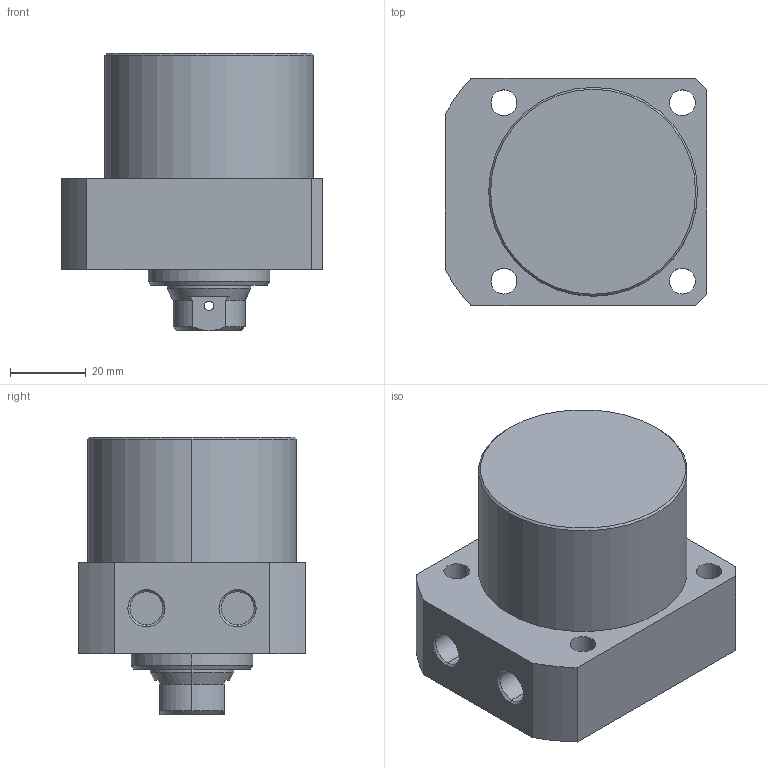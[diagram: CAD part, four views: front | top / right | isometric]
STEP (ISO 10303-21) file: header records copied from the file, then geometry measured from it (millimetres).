
FILE_DESCRIPTION (( 'STEP AP203' ), '1' );
FILE_NAME ('CLLR-055CB-020.STEP', '2019-12-19T07:43:59', ( '' ), ( '' ), 'SwSTEP 2.0', 'SolidWorks 2015', '' );
FILE_SCHEMA (( 'CONFIG_CONTROL_DESIGN' ));
Length unit declared in the file: millimetre
Products named in the file (1): CLLR-055CB-020
Bounding box: 69 x 60 x 73 mm (x, y, z)
Volume: 175999.5 mm3; surface area: 23928.5 mm2
Topology: 1 solids, 1 shells, 69 faces, 163 edges, 102 vertices
Faces by surface type: cylinder 33, plane 19, cone 17
Entity records: 2183 total; most frequent: CARTESIAN_POINT 453, DIRECTION 368, ORIENTED_EDGE 322, EDGE_CURVE 161, AXIS2_PLACEMENT_3D 149, VERTEX_POINT 102, EDGE_LOOP 89, CIRCLE 79
